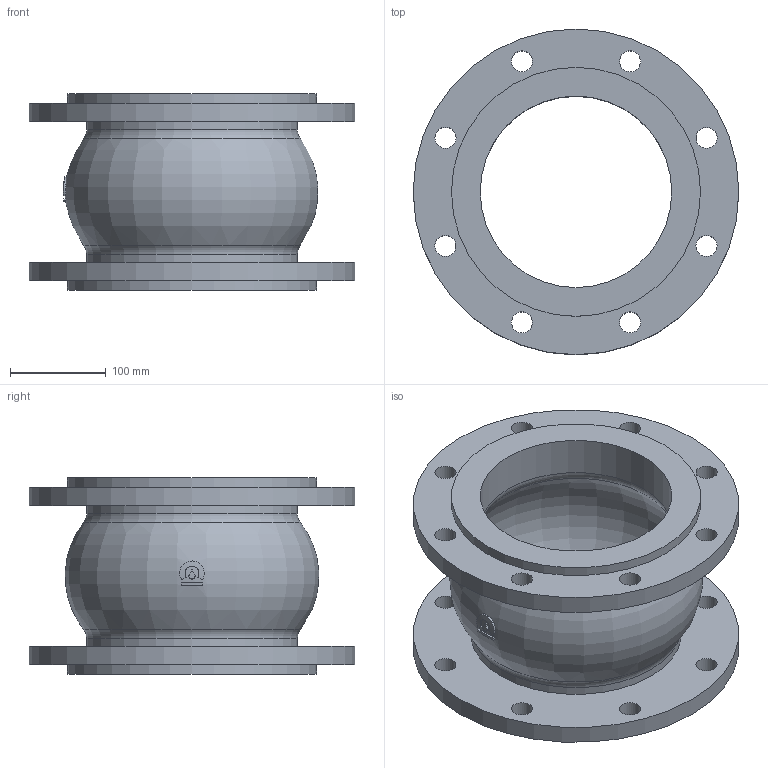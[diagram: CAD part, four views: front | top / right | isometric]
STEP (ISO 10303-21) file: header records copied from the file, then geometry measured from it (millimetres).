
FILE_DESCRIPTION(('STEP AP203'), '1');
FILE_NAME('Êîìïåíñàòîð KMS DN200 PN10_L205', '', ('UNSPECIFIED'), ('UNSPECIFIED'), 'ASCON STEP Converter 1.6', 'ASCON Math Kernel', '');
FILE_SCHEMA(('CONFIG_CONTROL_DESIGN'));
Length unit declared in the file: millimetre
Bounding box: 340 x 340 x 205 mm (x, y, z)
Volume: 3737673.2 mm3; surface area: 558290.3 mm2
Topology: 1 solids, 1 shells, 53 faces, 124 edges, 80 vertices
Faces by surface type: cylinder 31, plane 13, torus 9
Full cylindrical faces by diameter (mm): 22 x16, 200 x2, 220 x2, 260 x2, 340 x2
Entity records: 2681 total; most frequent: CARTESIAN_POINT 1044, DIRECTION 238, ORIENTED_EDGE 188, EDGE_LOOP 124, AXIS2_PLACEMENT_3D 112, EDGE_CURVE 94, VERTEX_POINT 80, FACE_BOUND 64
